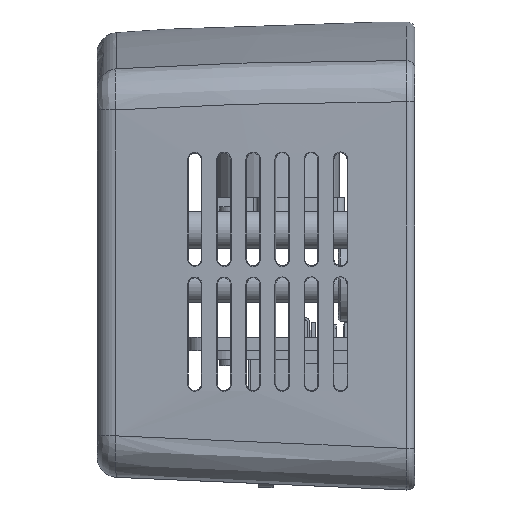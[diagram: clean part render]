
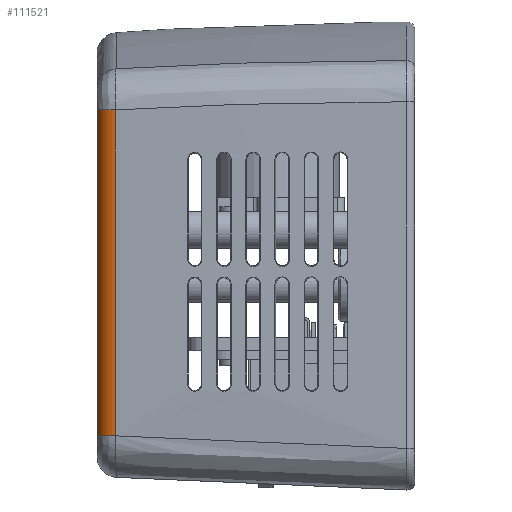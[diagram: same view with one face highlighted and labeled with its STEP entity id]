
A CAD part, left-side view. The second image highlights one B-rep face of the part: STEP entity #111521.
In plain terms, the highlighted cylindrical face has radius 2.5 mm (diameter 5 mm), a partial arc.
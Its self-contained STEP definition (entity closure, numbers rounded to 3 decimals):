
#2871 = CYLINDRICAL_SURFACE ( 'NONE', #47697, 2.5 ) ;
#4560 = VERTEX_POINT ( 'NONE', #70725 ) ;
#7910 = DIRECTION ( 'NONE',  ( 0., 0., -1. ) ) ;
#8479 = DIRECTION ( 'NONE',  ( -1., 0., 0. ) ) ;
#13405 = EDGE_CURVE ( 'NONE', #55160, #4560, #105002, .T. ) ;
#15386 = EDGE_CURVE ( 'NONE', #50979, #79738, #64606, .T. ) ;
#22614 = LINE ( 'NONE', #38776, #24056 ) ;
#24056 = VECTOR ( 'NONE', #57823, 1000. ) ;
#24211 = ORIENTED_EDGE ( 'NONE', *, *, #13405, .F. ) ;
#27502 = CARTESIAN_POINT ( 'NONE',  ( -67.429, 19.2, 30.5 ) ) ;
#38776 = CARTESIAN_POINT ( 'NONE',  ( -69.913, 16.99, 19.442 ) ) ;
#47697 = AXIS2_PLACEMENT_3D ( 'NONE', #99889, #55960, #88969 ) ;
#50979 = VERTEX_POINT ( 'NONE', #72276 ) ;
#55160 = VERTEX_POINT ( 'NONE', #56926 ) ;
#55960 = DIRECTION ( 'NONE',  ( 0., 0., 1. ) ) ;
#56926 = CARTESIAN_POINT ( 'NONE',  ( -69.913, 16.99, -19.717 ) ) ;
#57823 = DIRECTION ( 'NONE',  ( 0., 0., -1. ) ) ;
#62377 = FACE_OUTER_BOUND ( 'NONE', #96832, .T. ) ;
#64606 = CIRCLE ( 'NONE', #83124, 2.5 ) ;
#65205 = DIRECTION ( 'NONE',  ( -1., 0., 0. ) ) ;
#70725 = CARTESIAN_POINT ( 'NONE',  ( -67.429, 19.2, -19.717 ) ) ;
#72276 = CARTESIAN_POINT ( 'NONE',  ( -69.913, 16.99, 19.442 ) ) ;
#73471 = CARTESIAN_POINT ( 'NONE',  ( -67.429, 19.2, 19.442 ) ) ;
#76700 = ORIENTED_EDGE ( 'NONE', *, *, #94841, .F. ) ;
#79738 = VERTEX_POINT ( 'NONE', #73471 ) ;
#83124 = AXIS2_PLACEMENT_3D ( 'NONE', #87016, #7910, #8479 ) ;
#84711 = EDGE_CURVE ( 'NONE', #50979, #55160, #22614, .T. ) ;
#87016 = CARTESIAN_POINT ( 'NONE',  ( -67.429, 16.7, 19.442 ) ) ;
#87622 = DIRECTION ( 'NONE',  ( 0., 0., 1. ) ) ;
#88414 = AXIS2_PLACEMENT_3D ( 'NONE', #90653, #109140, #65205 ) ;
#88969 = DIRECTION ( 'NONE',  ( 1., 0., 0. ) ) ;
#89723 = ORIENTED_EDGE ( 'NONE', *, *, #15386, .T. ) ;
#90653 = CARTESIAN_POINT ( 'NONE',  ( -67.429, 16.7, -19.717 ) ) ;
#94841 = EDGE_CURVE ( 'NONE', #4560, #79738, #110762, .T. ) ;
#96832 = EDGE_LOOP ( 'NONE', ( #89723, #76700, #24211, #98868 ) ) ;
#98868 = ORIENTED_EDGE ( 'NONE', *, *, #84711, .F. ) ;
#99889 = CARTESIAN_POINT ( 'NONE',  ( -67.429, 16.7, -19.717 ) ) ;
#105002 = CIRCLE ( 'NONE', #88414, 2.5 ) ;
#109140 = DIRECTION ( 'NONE',  ( 0., 0., -1. ) ) ;
#109883 = VECTOR ( 'NONE', #87622, 1000. ) ;
#110762 = LINE ( 'NONE', #27502, #109883 ) ;
#111521 = ADVANCED_FACE ( 'NONE', ( #62377 ), #2871, .T. ) ;
